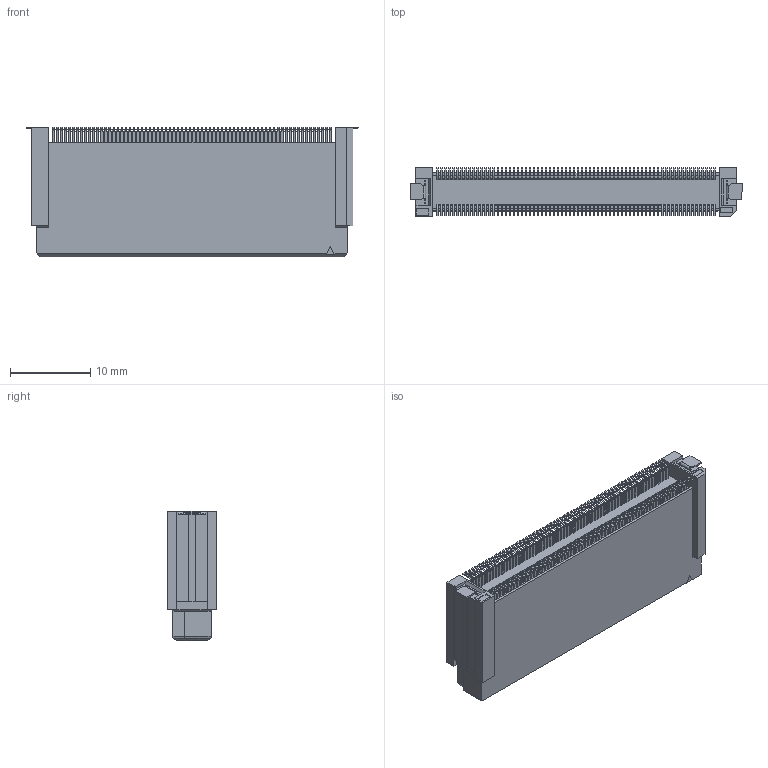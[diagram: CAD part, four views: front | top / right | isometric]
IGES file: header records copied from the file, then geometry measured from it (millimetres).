
Start section: Elysium IGES Interface
Global section: file name: 108HG:\その他\DT関連\【59期以前】\DT_CADﾃﾞｰﾀ\DT_3DCAD(客先提出用)\プラグ\-18\web用\igs\P3D522_DT10-140S-18-T.igs; native system: Creo Elements/Direct Modeling 20.4A  18-Oct-2021; preprocessor: Creo Element/Direct IGES_3D V2.2; author: Unknown; organization: Unknown; date: 20220316.144344; units: millimetre
Bounding box: 41.4 x 6.2 x 16.18 mm (x, y, z)
Volume: 2629.5 mm3; surface area: 2473 mm2
Topology: 1 solids, 1 shells, 4223 faces, 11914 edges, 7840 vertices
Faces by surface type: bspline 4223
